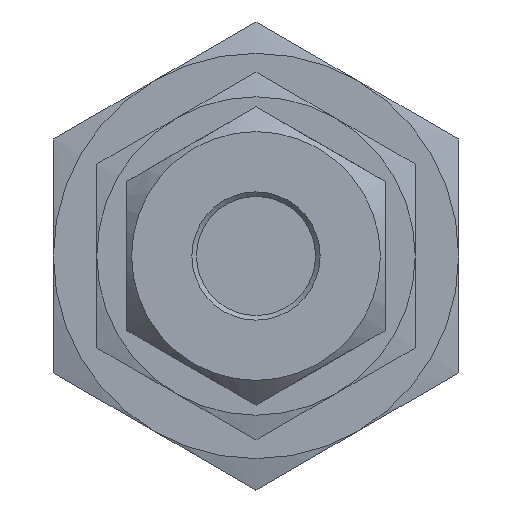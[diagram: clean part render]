
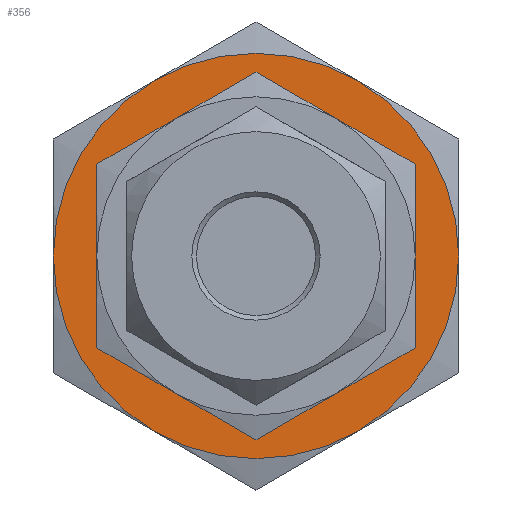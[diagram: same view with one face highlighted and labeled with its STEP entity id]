
A CAD part, left-side view. The second image highlights one B-rep face of the part: STEP entity #356.
In plain terms, the highlighted planar face has unit normal (-1, 0, 0).
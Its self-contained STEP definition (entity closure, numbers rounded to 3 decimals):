
#356 = ADVANCED_FACE( '', ( #1220, #1221 ), #1222, .T. );
#1220 = FACE_BOUND( '', #2399, .T. );
#1221 = FACE_OUTER_BOUND( '', #2400, .T. );
#1222 = PLANE( '', #2401 );
#2399 = EDGE_LOOP( '', ( #4005, #4006, #4007, #4008, #4009, #4010 ) );
#2400 = EDGE_LOOP( '', ( #4011, #4012, #4013, #4014, #4015, #4016 ) );
#2401 = AXIS2_PLACEMENT_3D( '', #4017, #4018, #4019 );
#4005 = ORIENTED_EDGE( '', *, *, #6605, .T. );
#4006 = ORIENTED_EDGE( '', *, *, #6606, .T. );
#4007 = ORIENTED_EDGE( '', *, *, #6607, .T. );
#4008 = ORIENTED_EDGE( '', *, *, #6608, .T. );
#4009 = ORIENTED_EDGE( '', *, *, #6609, .F. );
#4010 = ORIENTED_EDGE( '', *, *, #6610, .T. );
#4011 = ORIENTED_EDGE( '', *, *, #6611, .T. );
#4012 = ORIENTED_EDGE( '', *, *, #6612, .F. );
#4013 = ORIENTED_EDGE( '', *, *, #6613, .F. );
#4014 = ORIENTED_EDGE( '', *, *, #6614, .T. );
#4015 = ORIENTED_EDGE( '', *, *, #6615, .T. );
#4016 = ORIENTED_EDGE( '', *, *, #6616, .T. );
#4017 = CARTESIAN_POINT( '', ( 0., 11.246, -11.246 ) );
#4018 = DIRECTION( '', ( -1., 0., 0. ) );
#4019 = DIRECTION( '', ( 0., -1., 0. ) );
#6605 = EDGE_CURVE( '', #7631, #7632, #7633, .F. );
#6606 = EDGE_CURVE( '', #7632, #7634, #7635, .F. );
#6607 = EDGE_CURVE( '', #7634, #7636, #7637, .F. );
#6608 = EDGE_CURVE( '', #7636, #7638, #7639, .F. );
#6609 = EDGE_CURVE( '', #7640, #7638, #7641, .T. );
#6610 = EDGE_CURVE( '', #7640, #7631, #7642, .F. );
#6611 = EDGE_CURVE( '', #7643, #7644, #7645, .F. );
#6612 = EDGE_CURVE( '', #7646, #7644, #7647, .T. );
#6613 = EDGE_CURVE( '', #7648, #7646, #7649, .T. );
#6614 = EDGE_CURVE( '', #7648, #7650, #7651, .F. );
#6615 = EDGE_CURVE( '', #7650, #7652, #7653, .F. );
#6616 = EDGE_CURVE( '', #7652, #7643, #7654, .F. );
#7631 = VERTEX_POINT( '', #9191 );
#7632 = VERTEX_POINT( '', #9192 );
#7633 = CIRCLE( '', #9193, 8.731 );
#7634 = VERTEX_POINT( '', #9194 );
#7635 = CIRCLE( '', #9195, 8.731 );
#7636 = VERTEX_POINT( '', #9196 );
#7637 = CIRCLE( '', #9197, 8.731 );
#7638 = VERTEX_POINT( '', #9198 );
#7639 = CIRCLE( '', #9199, 8.731 );
#7640 = VERTEX_POINT( '', #9200 );
#7641 = CIRCLE( '', #9201, 8.731 );
#7642 = CIRCLE( '', #9202, 8.731 );
#7643 = VERTEX_POINT( '', #9203 );
#7644 = VERTEX_POINT( '', #9204 );
#7645 = CIRCLE( '', #9205, 11.113 );
#7646 = VERTEX_POINT( '', #9206 );
#7647 = CIRCLE( '', #9207, 11.112 );
#7648 = VERTEX_POINT( '', #9208 );
#7649 = CIRCLE( '', #9209, 11.112 );
#7650 = VERTEX_POINT( '', #9210 );
#7651 = CIRCLE( '', #9211, 11.113 );
#7652 = VERTEX_POINT( '', #9212 );
#7653 = CIRCLE( '', #9213, 11.112 );
#7654 = CIRCLE( '', #9214, 11.112 );
#9191 = CARTESIAN_POINT( '', ( 0., -8.731, 0. ) );
#9192 = CARTESIAN_POINT( '', ( 0., -4.366, -7.561 ) );
#9193 = AXIS2_PLACEMENT_3D( '', #11795, #11796, #11797 );
#9194 = CARTESIAN_POINT( '', ( 0., 4.366, -7.561 ) );
#9195 = AXIS2_PLACEMENT_3D( '', #11798, #11799, #11800 );
#9196 = CARTESIAN_POINT( '', ( 0., 8.731, 0. ) );
#9197 = AXIS2_PLACEMENT_3D( '', #11801, #11802, #11803 );
#9198 = CARTESIAN_POINT( '', ( 0., 4.366, 7.561 ) );
#9199 = AXIS2_PLACEMENT_3D( '', #11804, #11805, #11806 );
#9200 = CARTESIAN_POINT( '', ( 0., -4.366, 7.561 ) );
#9201 = AXIS2_PLACEMENT_3D( '', #11807, #11808, #11809 );
#9202 = AXIS2_PLACEMENT_3D( '', #11810, #11811, #11812 );
#9203 = CARTESIAN_POINT( '', ( 0., -5.556, -9.624 ) );
#9204 = CARTESIAN_POINT( '', ( 0., -11.113, 0. ) );
#9205 = AXIS2_PLACEMENT_3D( '', #11813, #11814, #11815 );
#9206 = CARTESIAN_POINT( '', ( 0., -5.556, 9.624 ) );
#9207 = AXIS2_PLACEMENT_3D( '', #11816, #11817, #11818 );
#9208 = CARTESIAN_POINT( '', ( 0., 5.556, 9.624 ) );
#9209 = AXIS2_PLACEMENT_3D( '', #11819, #11820, #11821 );
#9210 = CARTESIAN_POINT( '', ( 0., 11.113, 0. ) );
#9211 = AXIS2_PLACEMENT_3D( '', #11822, #11823, #11824 );
#9212 = CARTESIAN_POINT( '', ( 0., 5.556, -9.624 ) );
#9213 = AXIS2_PLACEMENT_3D( '', #11825, #11826, #11827 );
#9214 = AXIS2_PLACEMENT_3D( '', #11828, #11829, #11830 );
#11795 = CARTESIAN_POINT( '', ( 0., 0., 0. ) );
#11796 = DIRECTION( '', ( -1., 0., 0. ) );
#11797 = DIRECTION( '', ( 0., 1., 0. ) );
#11798 = CARTESIAN_POINT( '', ( 0., 0., 0. ) );
#11799 = DIRECTION( '', ( -1., 0., 0. ) );
#11800 = DIRECTION( '', ( 0., 0., 1. ) );
#11801 = CARTESIAN_POINT( '', ( 0., 0., 0. ) );
#11802 = DIRECTION( '', ( -1., 0., 0. ) );
#11803 = DIRECTION( '', ( 0., 1., 0. ) );
#11804 = CARTESIAN_POINT( '', ( 0., 0., 0. ) );
#11805 = DIRECTION( '', ( -1., 0., 0. ) );
#11806 = DIRECTION( '', ( 0., 1., 0. ) );
#11807 = CARTESIAN_POINT( '', ( 0., 0., 0. ) );
#11808 = DIRECTION( '', ( -1., 0., 0. ) );
#11809 = DIRECTION( '', ( 0., 0., 1. ) );
#11810 = CARTESIAN_POINT( '', ( 0., 0., 0. ) );
#11811 = DIRECTION( '', ( -1., 0., 0. ) );
#11812 = DIRECTION( '', ( 0., 1., 0. ) );
#11813 = CARTESIAN_POINT( '', ( 0., 0., 0. ) );
#11814 = DIRECTION( '', ( 1., 0., 0. ) );
#11815 = DIRECTION( '', ( 0., 1., 0. ) );
#11816 = CARTESIAN_POINT( '', ( 0., 0., 0. ) );
#11817 = DIRECTION( '', ( 1., 0., 0. ) );
#11818 = DIRECTION( '', ( 0., 1., 0. ) );
#11819 = CARTESIAN_POINT( '', ( 0., 0., 0. ) );
#11820 = DIRECTION( '', ( 1., 0., 0. ) );
#11821 = DIRECTION( '', ( 0., 0., -1. ) );
#11822 = CARTESIAN_POINT( '', ( 0., 0., 0. ) );
#11823 = DIRECTION( '', ( 1., 0., 0. ) );
#11824 = DIRECTION( '', ( 0., 1., 0. ) );
#11825 = CARTESIAN_POINT( '', ( 0., 0., 0. ) );
#11826 = DIRECTION( '', ( 1., 0., 0. ) );
#11827 = DIRECTION( '', ( 0., 1., 0. ) );
#11828 = CARTESIAN_POINT( '', ( 0., 0., 0. ) );
#11829 = DIRECTION( '', ( 1., 0., 0. ) );
#11830 = DIRECTION( '', ( 0., 0., -1. ) );
